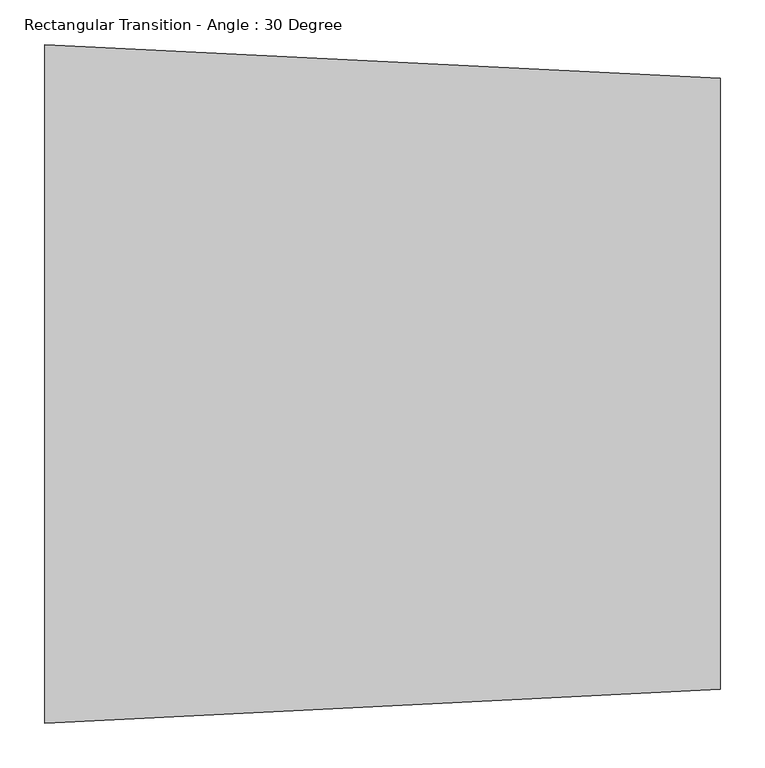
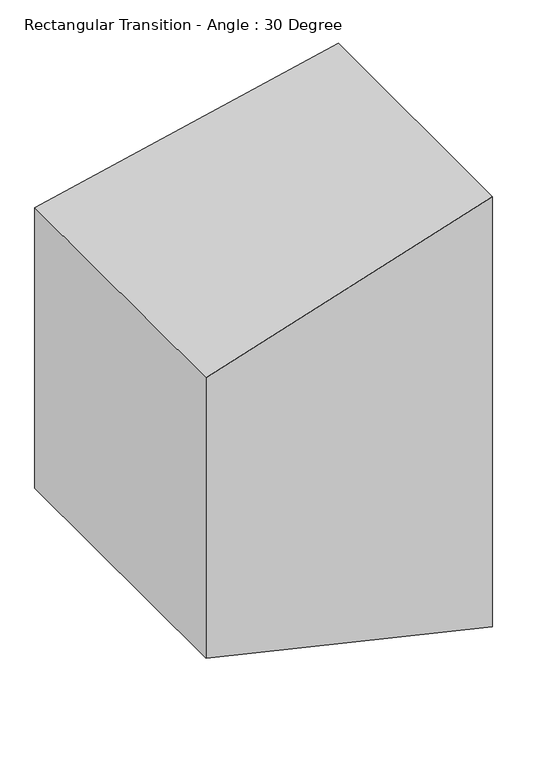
"""IFC4 building model written with IfcOpenShell, lengths in millimetres: duct fitting geometry, Rectangular Transition - Angle : 30 Degree."""

from ifc_helpers import new_model, si_unit, origin, place, context, project, spatial, faceted_brep, source, transform, mapped, element, save


def rectangular_transition_angle_30_degree_7e3f0487(model_context):
    return source(origin(), model_context, "Body", "Brep", [
        faceted_brep([(758.3527241, -342.9, 584.2), (758.3527241, -342.9, -584.2), (758.3527241, 342.9, -584.2), (758.3527241, 342.9, 584.2), (0.0, -381.0, 381.0), (0.0, 381.0, 381.0), (0.0, 381.0, -381.0), (0.0, -381.0, -381.0)], [[[0, 1, 2, 3]], [[4, 5, 6, 7]], [[4, 7, 1, 0]], [[7, 6, 2, 1]], [[6, 5, 3, 2]], [[5, 4, 0, 3]]]),
    ])


if __name__ == "__main__":
    model = new_model("IFC4")
    model_context = context("Model", 3, world=origin())
    ifc_project = project(units=[si_unit("LENGTHUNIT", "METRE", prefix="MILLI")], contexts=[model_context])
    site = spatial("IfcSite", under=ifc_project)
    building = spatial("IfcBuilding", under=site)
    placement = place(None, origin())
    rectangular_transition_angle_30_degree_shape = rectangular_transition_angle_30_degree_7e3f0487(model_context)
    element("IfcDuctFitting", 1, ObjectType="Rectangular Transition - Angle : 30 Degree", at=placement, inside=building, context=model_context, shape_type="MappedRepresentation", body=[
        mapped(rectangular_transition_angle_30_degree_shape, transform((0.0, 0.0, 0.0), x_axis=(1.0, 0.0, 0.0), y_axis=(0.0, 1.0, 0.0), z_axis=(0.0, 0.0, 1.0))),
    ])
    save(model, "model.ifc")
